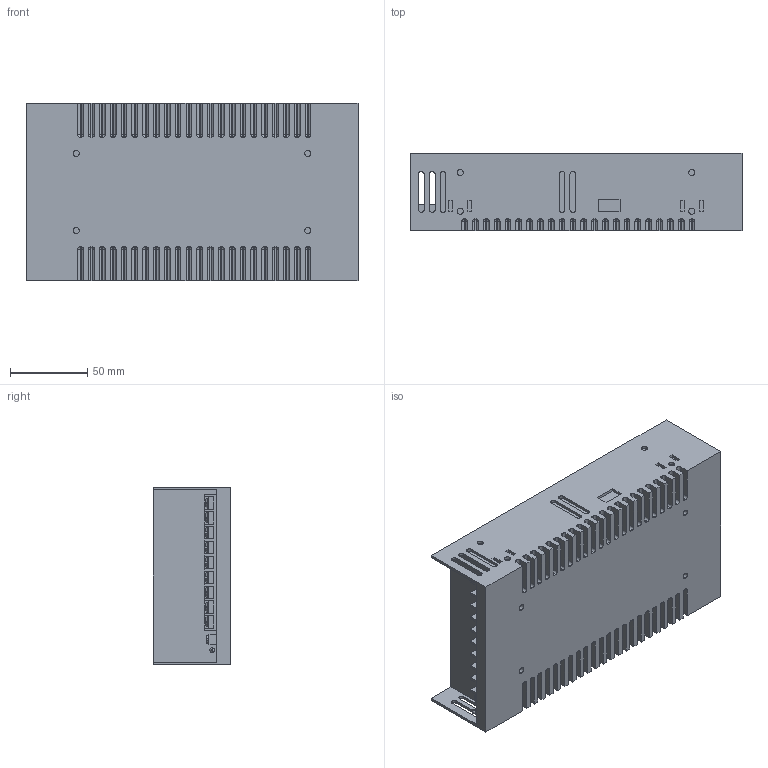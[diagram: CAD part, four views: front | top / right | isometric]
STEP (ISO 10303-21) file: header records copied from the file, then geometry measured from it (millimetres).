
FILE_DESCRIPTION (( 'STEP AP214' ), '1' );
FILE_NAME ('power_supply.STEP', '2015-02-26T22:51:33', ( '' ), ( '' ), '', '', '' );
FILE_SCHEMA (( '' ));
Length unit declared in the file: millimetre
Products named in the file (1): power_supply
Bounding box: 215 x 50 x 115 mm (x, y, z)
Volume: 1126241.2 mm3; surface area: 101307.6 mm2
Topology: 2 solids, 2 shells, 1142 faces, 3002 edges, 1839 vertices
Faces by surface type: plane 591, cylinder 426, sphere 88, torus 29, cone 8
Entity records: 35903 total; most frequent: CARTESIAN_POINT 6220, DIRECTION 6108, ORIENTED_EDGE 5828, EDGE_CURVE 2914, AXIS2_PLACEMENT_3D 2087, LINE 1934, VECTOR 1934, VERTEX_POINT 1839
